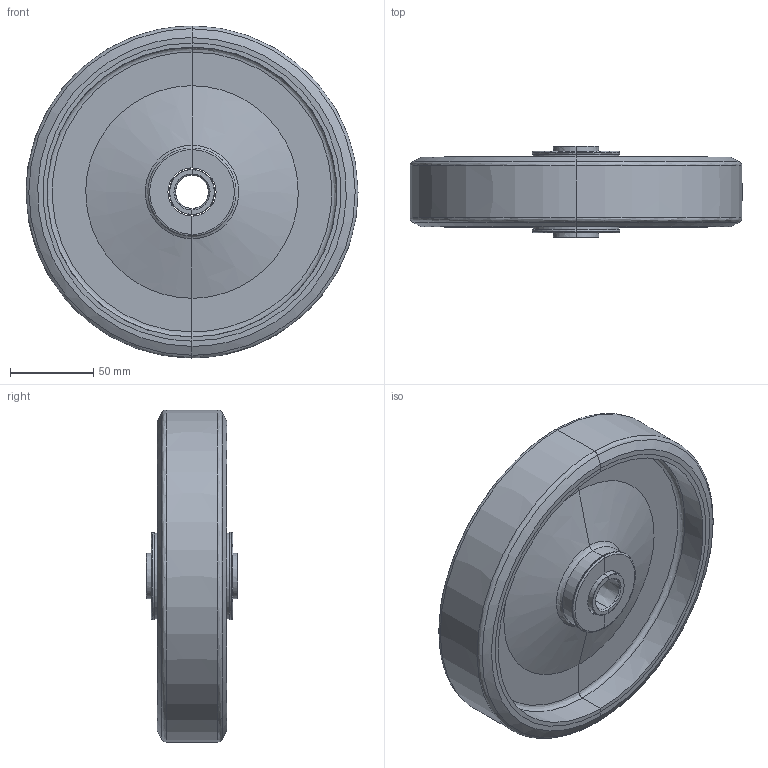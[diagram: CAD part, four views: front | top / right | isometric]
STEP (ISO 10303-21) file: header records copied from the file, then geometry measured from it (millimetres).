
FILE_DESCRIPTION (( 'STEP AP214' ), '1' );
FILE_NAME ('P-200W.STEP', '2022-09-22T07:03:21', ( '' ), ( '' ), 'SwSTEP 2.0', 'SolidWorks 2010', '' );
FILE_SCHEMA (( 'AUTOMOTIVE_DESIGN' ));
Length unit declared in the file: millimetre
Products named in the file (6): P200W-20; P200W-25; P200W-10; P-200W; P200W-30; P200W-15
Assembly tree (5 placements, depth 2):
  P-200W
    P200W-30
    P200W-15
    P200W-10
    P200W-20
    P200W-25
Bounding box: 200 x 55 x 200 mm (x, y, z)
Volume: 449294.5 mm3; surface area: 238415.3 mm2
Topology: 10 solids, 10 shells, 254 faces, 508 edges, 254 vertices
Faces by surface type: bspline 254
Entity records: 40433 total; most frequent: CARTESIAN_POINT 36808, ORIENTED_EDGE 1016, B_SPLINE_CURVE_WITH_KNOTS 508, EDGE_CURVE 508, B_SPLINE_SURFACE_WITH_KNOTS 254, VERTEX_POINT 254, ADVANCED_FACE 254, EDGE_LOOP 254
